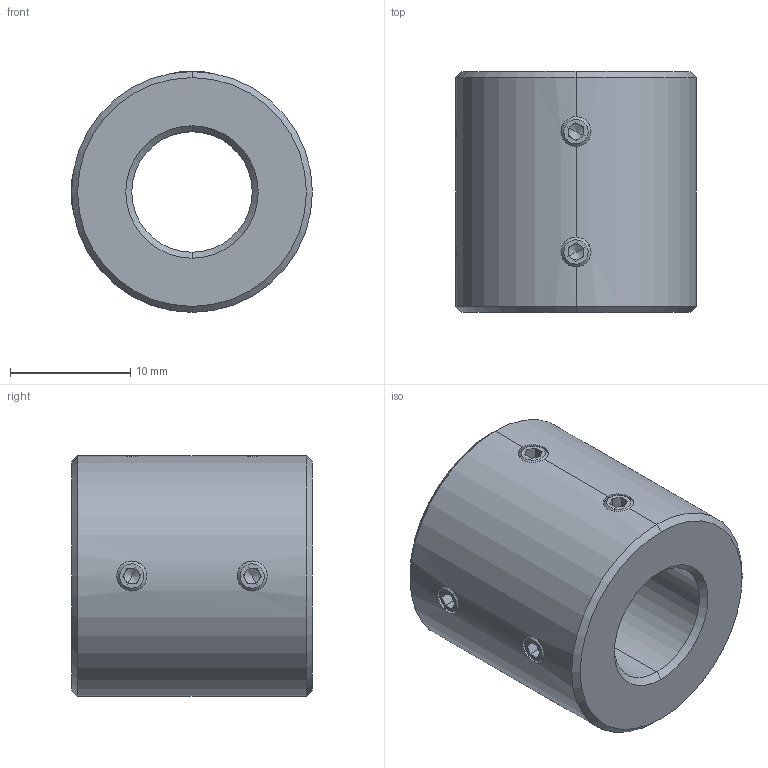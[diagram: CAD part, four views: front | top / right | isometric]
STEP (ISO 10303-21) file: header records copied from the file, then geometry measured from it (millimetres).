
FILE_DESCRIPTION (( 'STEP AP214' ), '1' );
FILE_NAME ('LL-D-D20L20-10-10.STEP', '2022-07-23T06:39:36', ( '' ), ( '' ), 'SwSTEP 2.0', 'SolidWorks 2022', '' );
FILE_SCHEMA (( 'AUTOMOTIVE_DESIGN' ));
Length unit declared in the file: millimetre
Products named in the file (1): LL-D-D20L20-10-10
Bounding box: 20 x 20 x 20 mm (x, y, z)
Volume: 4656.8 mm3; surface area: 2387.3 mm2
Topology: 1 solids, 1 shells, 110 faces, 280 edges, 172 vertices
Faces by surface type: plane 58, cone 32, cylinder 20
Entity records: 3558 total; most frequent: CARTESIAN_POINT 875, DIRECTION 566, ORIENTED_EDGE 544, EDGE_CURVE 272, AXIS2_PLACEMENT_3D 207, VERTEX_POINT 172, VECTOR 152, LINE 152
